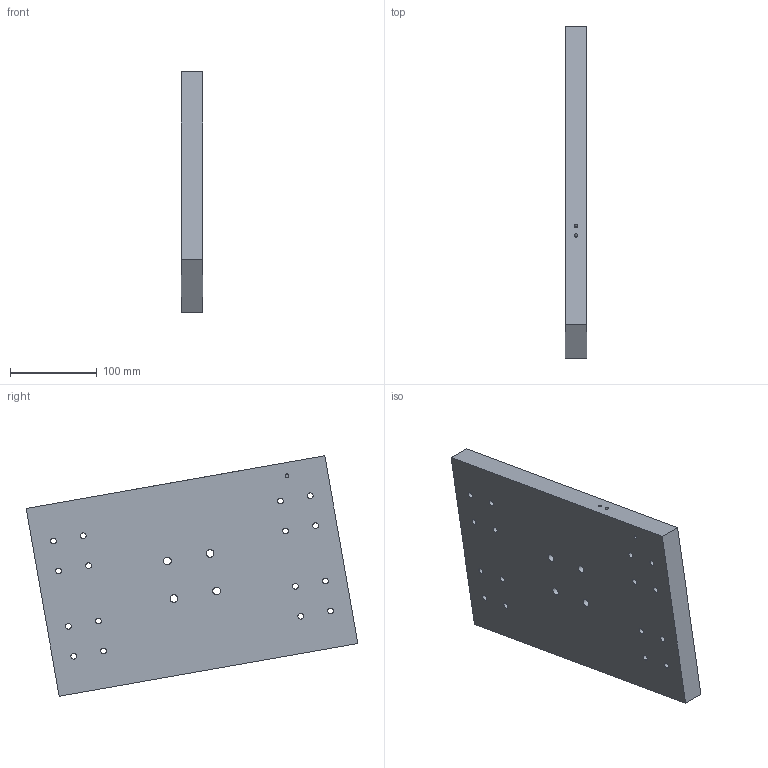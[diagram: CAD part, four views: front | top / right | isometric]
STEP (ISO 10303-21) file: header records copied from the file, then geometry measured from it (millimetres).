
FILE_DESCRIPTION(('golf model'),'2;1');
FILE_NAME('golf','',(''),(''),'golf_step_io','golf','');
FILE_SCHEMA(('AUTOMOTIVE_DESIGN { 1 0 10303 214 1 1 1 1 }'));
Length unit declared in the file: millimetre
Products named in the file (2): ASSEMBLY; z_axis.z_plate
Assembly tree (1 placements, depth 2):
  ASSEMBLY
    z_axis.z_plate
Bounding box: 25 x 382.89 x 277.43 mm (x, y, z)
Volume: 1886108.5 mm3; surface area: 198765.7 mm2
Topology: 1 solids, 1 shells, 88 faces, 214 edges, 159 vertices
Faces by surface type: cylinder 51, plane 37
Full cylindrical faces by diameter (mm): 4.2 x3, 6.6 x16, 8.4 x8, 9 x4, 11 x16, 14 x4
Entity records: 2110 total; most frequent: DIRECTION 396, CARTESIAN_POINT 314, ORIENTED_EDGE 228, EDGE_LOOP 210, AXIS2_PLACEMENT_3D 192, FACE_BOUND 187, EDGE_CURVE 114, VERTEX_POINT 110
